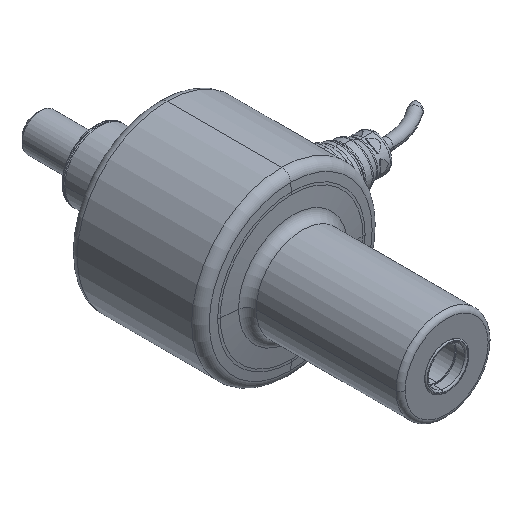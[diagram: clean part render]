
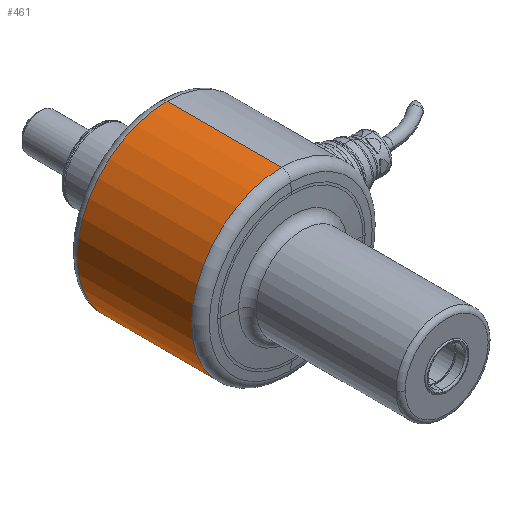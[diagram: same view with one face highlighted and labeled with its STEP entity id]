
A CAD part, isometric view. The second image highlights one B-rep face of the part: STEP entity #461.
In plain terms, the highlighted cylindrical face has radius 39 mm (diameter 78 mm), a partial arc.
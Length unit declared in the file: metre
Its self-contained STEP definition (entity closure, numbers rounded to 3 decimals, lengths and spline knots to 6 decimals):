
#461=ADVANCED_FACE('0:489',(#776),#777,.T.);
#776=FACE_OUTER_BOUND('',#1167,.T.);
#777=CYLINDRICAL_SURFACE('',#1168,0.039);
#1167=EDGE_LOOP('',(#2041,#2042,#2043,#2044));
#1168=AXIS2_PLACEMENT_3D('',#2045,#2046,#2047);
#2041=ORIENTED_EDGE('',*,*,#2745,.T.);
#2042=ORIENTED_EDGE('',*,*,#2766,.T.);
#2043=ORIENTED_EDGE('',*,*,#2747,.T.);
#2044=ORIENTED_EDGE('',*,*,#2769,.T.);
#2045=CARTESIAN_POINT('',(0.0,0.112,0.0));
#2046=DIRECTION('',(0.0,-1.0,0.0));
#2047=DIRECTION('',(0.0,0.0,1.0));
#2745=EDGE_CURVE('',#3208,#3209,#3210,.T.);
#2747=EDGE_CURVE('',#3213,#3211,#3214,.T.);
#2766=EDGE_CURVE('0:507',#3209,#3213,#3241,.T.);
#2769=EDGE_CURVE('0:516',#3211,#3208,#3244,.T.);
#3208=VERTEX_POINT('',#3805);
#3209=VERTEX_POINT('',#3806);
#3210=LINE('',#3807,#3808);
#3211=VERTEX_POINT('',#3809);
#3213=VERTEX_POINT('',#3811);
#3214=LINE('',#3812,#3813);
#3241=CIRCLE('',#4029,0.039);
#3244=CIRCLE('',#4032,0.039);
#3805=CARTESIAN_POINT('',(0.,0.015665,0.039));
#3806=CARTESIAN_POINT('',(0.,0.065335,0.039));
#3807=CARTESIAN_POINT('',(0.,0.0405,0.039));
#3808=VECTOR('',#4896,1.0);
#3809=CARTESIAN_POINT('',(0.,0.015665,-0.039));
#3811=CARTESIAN_POINT('',(0.,0.065335,-0.039));
#3812=CARTESIAN_POINT('',(0.,0.0405,-0.039));
#3813=VECTOR('',#4900,1.0);
#4029=AXIS2_PLACEMENT_3D('',#4931,#4932,#4933);
#4032=AXIS2_PLACEMENT_3D('',#4940,#4941,#4942);
#4896=DIRECTION('',(0.0,1.0,-0.0));
#4900=DIRECTION('',(0.0,-1.0,0.0));
#4931=CARTESIAN_POINT('',(0.0,0.065335,0.0));
#4932=DIRECTION('',(0.0,-1.0,0.0));
#4933=DIRECTION('',(0.0,0.0,-1.0));
#4940=CARTESIAN_POINT('',(0.0,0.015665,0.0));
#4941=DIRECTION('',(0.0,1.0,0.0));
#4942=DIRECTION('',(0.0,0.0,-1.0));
